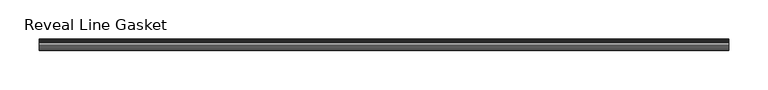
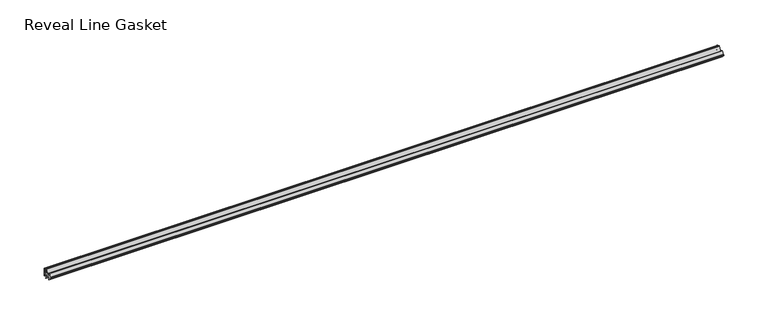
"""IFC4 building model written with IfcOpenShell, lengths in millimetres: proxy geometry, Accessories-Teknion-FHGR-AI_Healthcare-Reveal_Line_Gasket(Horizontal)-R2022 : Reveal Line Gasket."""

from ifc_helpers import new_model, si_unit, point, frame, frame_2d, origin, place, context, project, spatial, polyline, circle_curve, trimmed, segment, composite_curve, outline, extrude, source, transform, mapped, element, save


def reveal_line_gasket_932a528f(model_context):
    return source(origin(), model_context, "Body", "SweptSolid", [
        extrude(outline(composite_curve([segment(polyline([(7.6326998, 1603.2), (7.6326998, 1597.2), (7.4091917, 1596.2445073), (6.8813059, 1595.3115316)]), True, "CONTINUOUS"), segment(trimmed(circle_curve(frame_2d((6.5243141, 1595.5135207)), 0.4101739), [point((6.8813059, 1595.3115316))], [point((6.1246704, 1595.6058653))], False, "CARTESIAN"), True, "CONTINUOUS"), segment(polyline([(6.1246704, 1595.6058653), (6.3626997, 1597.3020914), (6.3626997, 1599.3345473)]), True, "CONTINUOUS"), segment(trimmed(circle_curve(frame_2d((5.6959605, 1598.9180742)), 0.786124), [point((6.3626997, 1599.3345473))], [point((5.0926996, 1599.422125))], True, "CARTESIAN"), True, "CONTINUOUS"), segment(polyline([(5.0926996, 1599.422125), (0.7492996, 1599.422125), (3.7293824, 1594.2604705)]), True, "CONTINUOUS"), segment(trimmed(circle_curve(frame_2d((3.3132479, 1594.1950239)), 0.4212495), [point((3.7293824, 1594.2604705))], [point((3.0485022, 1593.8673642))], False, "CARTESIAN"), True, "CONTINUOUS"), segment(polyline([(3.0485022, 1593.8673642), (-0.5742594, 1599.422125), (-4.8262978, 1599.422125), (-3.1660374, 1596.5464703)]), True, "CONTINUOUS"), segment(trimmed(circle_curve(frame_2d((-3.5978728, 1596.4881145)), 0.4357605), [point((-3.1660374, 1596.5464703))], [point((-3.864328, 1596.1433119))], False, "CARTESIAN"), True, "CONTINUOUS"), segment(polyline([(-3.864328, 1596.1433119), (-6.1944059, 1599.422125), (-7.6326998, 1599.422125), (-7.6326998, 1600.977875), (-6.1944059, 1600.977875), (-3.864328, 1604.2566881)]), True, "CONTINUOUS"), segment(trimmed(circle_curve(frame_2d((-3.5978728, 1603.9118855)), 0.4357605), [point((-3.864328, 1604.2566881))], [point((-3.1660374, 1603.8535297))], False, "CARTESIAN"), True, "CONTINUOUS"), segment(polyline([(-3.1660374, 1603.8535297), (-4.8262978, 1600.977875), (-0.5742594, 1600.977875), (3.0485022, 1606.5326358)]), True, "CONTINUOUS"), segment(trimmed(circle_curve(frame_2d((3.3132479, 1606.2049761)), 0.4212495), [point((3.0485022, 1606.5326358))], [point((3.7293824, 1606.1395295))], False, "CARTESIAN"), True, "CONTINUOUS"), segment(polyline([(3.7293824, 1606.1395295), (0.7492996, 1600.977875), (5.0926996, 1600.977875)]), True, "CONTINUOUS"), segment(trimmed(circle_curve(frame_2d((5.6959605, 1601.4819258)), 0.786124), [point((5.0926996, 1600.977875))], [point((6.3626997, 1601.0654527))], True, "CARTESIAN"), True, "CONTINUOUS"), segment(polyline([(6.3626997, 1601.0654527), (6.3626997, 1603.0979086), (6.1246704, 1604.7941347)]), True, "CONTINUOUS"), segment(trimmed(circle_curve(frame_2d((6.5243141, 1604.8864793)), 0.4101739), [point((6.1246704, 1604.7941347))], [point((6.8813059, 1605.0884684))], False, "CARTESIAN"), True, "CONTINUOUS"), segment(polyline([(6.8813059, 1605.0884684), (7.4091917, 1604.1554927), (7.6326998, 1603.2)]), True, "CONTINUOUS")], self_intersect=False)), frame((-441.5715701, 0.0, 0.0), z_axis=(1.0, 0.0, 0.0), x_axis=(0.0, 1.0, 0.0)), (0.0, 0.0, 1.0), 883.1431403),
    ])


if __name__ == "__main__":
    model = new_model("IFC4")
    model_context = context("Model", 3, world=origin())
    ifc_project = project(units=[si_unit("LENGTHUNIT", "METRE", prefix="MILLI")], contexts=[model_context])
    site = spatial("IfcSite", under=ifc_project)
    building = spatial("IfcBuilding", under=site)
    placement = place(None, origin())
    reveal_line_gasket_shape = reveal_line_gasket_932a528f(model_context)
    element("IfcBuildingElementProxy", 1, Name="Accessories-Teknion-FHGR-AI_Healthcare-Reveal_Line_Gasket(Horizontal)-R2022 : Reveal Line Gasket", ObjectType="Accessories-Teknion-FHGR-AI_Healthcare-Reveal_Line_Gasket(Horizontal)-R2022 : Reveal Line Gasket", at=placement, inside=building, context=model_context, shape_type="MappedRepresentation", body=[
        mapped(reveal_line_gasket_shape, transform((0.0, 0.0, 0.0), x_axis=(1.0, 0.0, 0.0), y_axis=(0.0, 1.0, 0.0), z_axis=(0.0, 0.0, 1.0))),
    ])
    save(model, "model.ifc")
